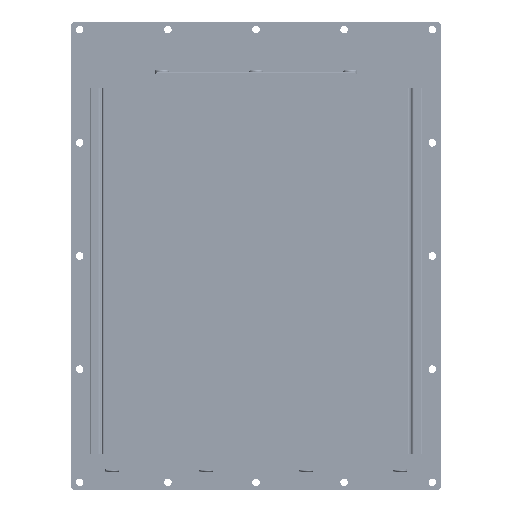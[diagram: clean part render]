
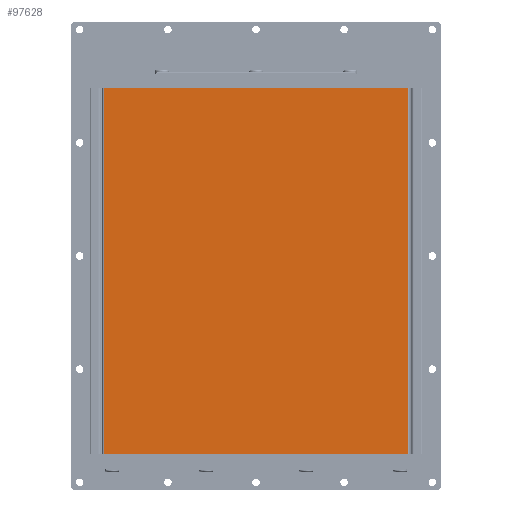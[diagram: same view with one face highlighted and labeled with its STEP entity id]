
A CAD part, front view. The second image highlights one B-rep face of the part: STEP entity #97628.
In plain terms, the highlighted planar face has unit normal (0, -1, 0).
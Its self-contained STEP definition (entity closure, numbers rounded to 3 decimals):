
#96724 = EDGE_CURVE ( 'NONE', #99026, #97363, #241098, .T. ) ;
#97086 = EDGE_LOOP ( 'NONE', ( #98380, #102197, #100251, #108800 ) ) ;
#97363 = VERTEX_POINT ( 'NONE', #248382 ) ;
#97628 = ADVANCED_FACE ( 'NONE', ( #250347 ), #250707, .T. ) ;
#97655 = VERTEX_POINT ( 'NONE', #251103 ) ;
#98380 = ORIENTED_EDGE ( 'NONE', *, *, #99093, .F. ) ;
#99026 = VERTEX_POINT ( 'NONE', #263859 ) ;
#99093 = EDGE_CURVE ( 'NONE', #97655, #97363, #264510, .T. ) ;
#100251 = ORIENTED_EDGE ( 'NONE', *, *, #104209, .T. ) ;
#102197 = ORIENTED_EDGE ( 'NONE', *, *, #102778, .F. ) ;
#102778 = EDGE_CURVE ( 'NONE', #102785, #97655, #311293, .T. ) ;
#102785 = VERTEX_POINT ( 'NONE', #311244 ) ;
#104209 = EDGE_CURVE ( 'NONE', #102785, #99026, #332862, .T. ) ;
#108800 = ORIENTED_EDGE ( 'NONE', *, *, #96724, .T. ) ;
#241083 = DIRECTION ( 'NONE',  ( 0., 0., 1. ) ) ;
#241088 = VECTOR ( 'NONE', #241083, 1000. ) ;
#241095 = CARTESIAN_POINT ( 'NONE',  ( 139.5, 0., -336. ) ) ;
#241098 = LINE ( 'NONE', #241095, #241088 ) ;
#248382 = CARTESIAN_POINT ( 'NONE',  ( 139.5, 0., 0. ) ) ;
#250347 = FACE_OUTER_BOUND ( 'NONE', #97086, .T. ) ;
#250678 = DIRECTION ( 'NONE',  ( 0., 0., -1. ) ) ;
#250682 = DIRECTION ( 'NONE',  ( 0., -1., 0. ) ) ;
#250686 = CARTESIAN_POINT ( 'NONE',  ( 139.5, 0., -336. ) ) ;
#250691 = AXIS2_PLACEMENT_3D ( 'NONE', #250686, #250682, #250678 ) ;
#250707 = PLANE ( 'NONE',  #250691 ) ;
#251103 = CARTESIAN_POINT ( 'NONE',  ( -139.5, 0., 0. ) ) ;
#263859 = CARTESIAN_POINT ( 'NONE',  ( 139.5, 0., -336. ) ) ;
#264498 = DIRECTION ( 'NONE',  ( 1., 0., 0. ) ) ;
#264499 = VECTOR ( 'NONE', #264498, 1000. ) ;
#264504 = CARTESIAN_POINT ( 'NONE',  ( 139.5, 0., 0. ) ) ;
#264510 = LINE ( 'NONE', #264504, #264499 ) ;
#311244 = CARTESIAN_POINT ( 'NONE',  ( -139.5, 0., -336. ) ) ;
#311277 = DIRECTION ( 'NONE',  ( 0., 0., 1. ) ) ;
#311281 = VECTOR ( 'NONE', #311277, 1000. ) ;
#311288 = CARTESIAN_POINT ( 'NONE',  ( -139.5, 0., -336. ) ) ;
#311293 = LINE ( 'NONE', #311288, #311281 ) ;
#332840 = DIRECTION ( 'NONE',  ( 1., 0., 0. ) ) ;
#332844 = VECTOR ( 'NONE', #332840, 1000. ) ;
#332854 = CARTESIAN_POINT ( 'NONE',  ( 139.5, 0., -336. ) ) ;
#332862 = LINE ( 'NONE', #332854, #332844 ) ;
